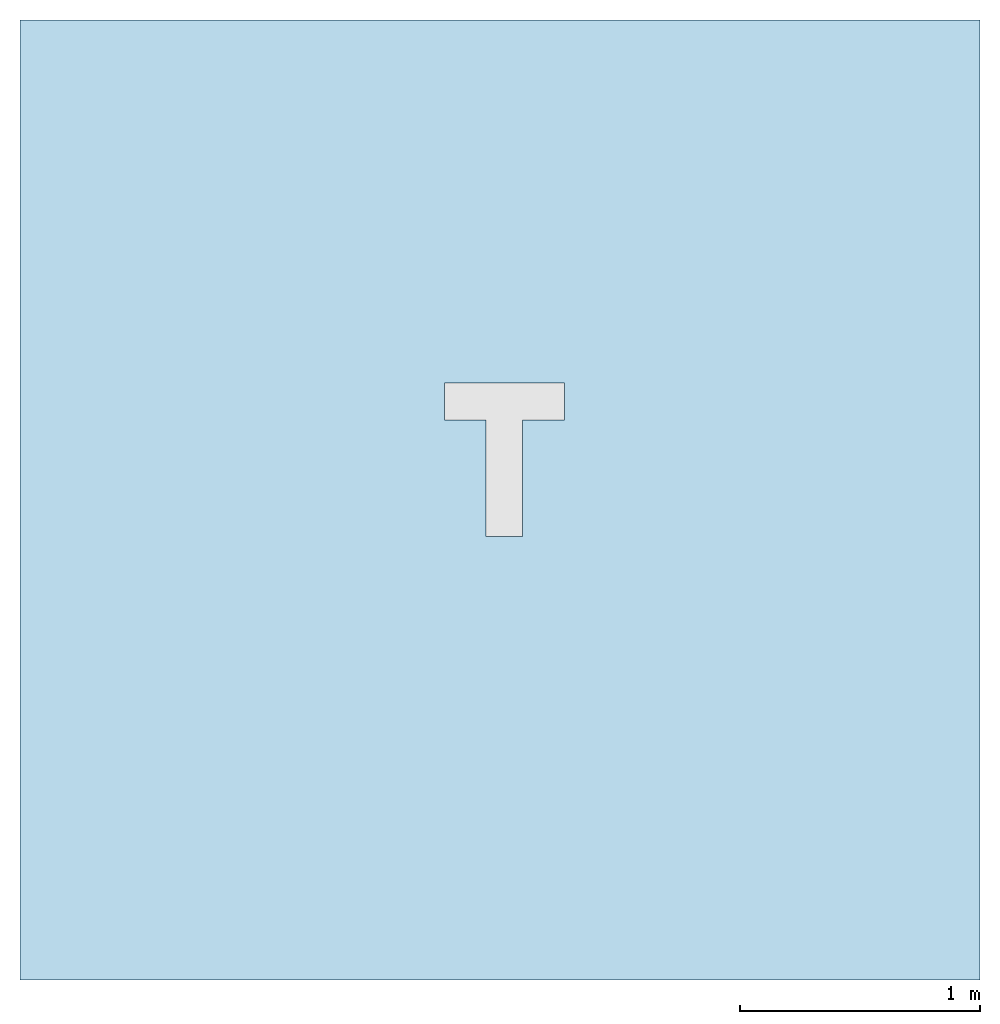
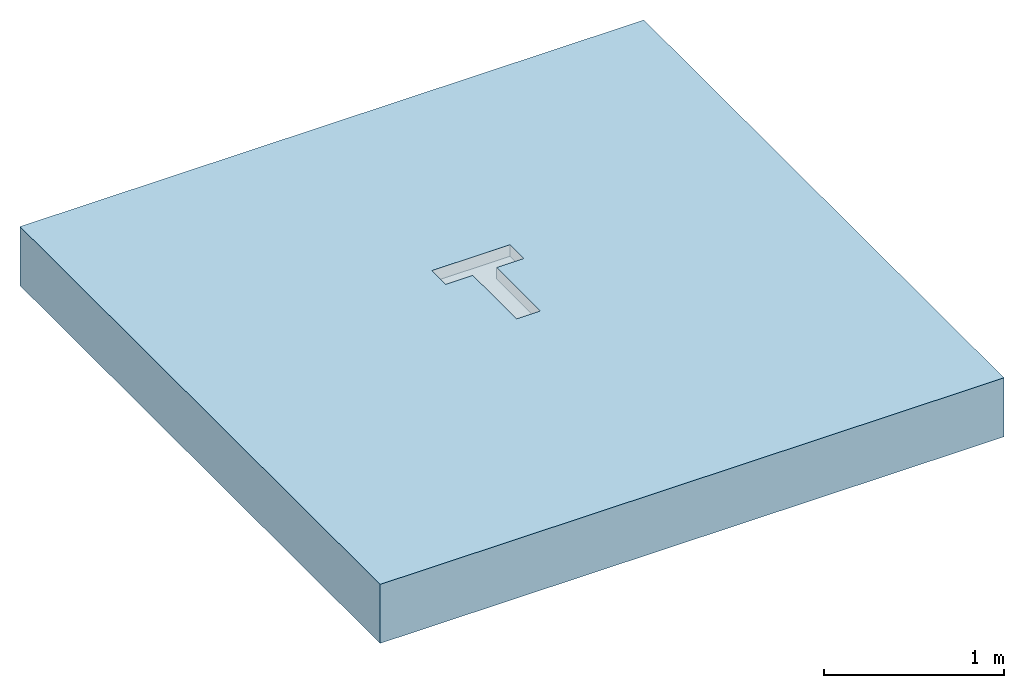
# One storey, incomplete: 1 slab, 1 opening.
"""IFC2X3 building model written with IfcOpenShell, lengths in millimetres."""

from ifc_helpers import new_model, entity, si_unit, converted_unit, direction, frame, frame_2d, origin, place, context, subcontext, project, spatial, polyline, rectangle, outline, extrude, material, layer, layer_set, layer_usage, element, save


model = new_model("IFC2X3")

# Units and contexts
model_context = context("Model", 3, precision=1e-06, world=origin(), true_north=direction((2.0, 6.12303176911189e-17, 1.0)))
context_of_model = context(None, 3, precision=1e-06, world=origin(), true_north=direction((2.0, 6.12303176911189e-17, 1.0)))
body_context = subcontext(model_context, "Body", "Model", "MODEL_VIEW")
ifc_project = project(units=[si_unit("LENGTHUNIT", "METRE", prefix="MILLI"), si_unit("AREAUNIT", "SQUARE_METRE", prefix="MILLI"), si_unit("VOLUMEUNIT", "CUBIC_METRE", prefix="MILLI"), converted_unit("PLANEANGLEUNIT", "DEGREE", entity("IfcRatioMeasure", 0.0174532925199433), si_unit("PLANEANGLEUNIT", "RADIAN"), dimensions=[0, 0, 0, 0, 0, 0, 0]), si_unit("TIMEUNIT", "SECOND")], contexts=[model_context, context_of_model])

# Site, building, storey
site_placement = place(None, origin())
site = spatial("IfcSite", under=ifc_project, at=site_placement, Name="Default", CompositionType="ELEMENT")
building_placement = place(site_placement, origin())
building = spatial("IfcBuilding", under=site, at=building_placement, CompositionType="ELEMENT")
storey_placement = place(building_placement, origin())
storey = spatial("IfcBuildingStorey", under=building, at=storey_placement, Name="Level 1", CompositionType="ELEMENT", Elevation=0.0)

# Slab, opening
ifc_material = material(Name="Concrete, Broom Finish")
ifc_layer = layer(ifc_material, 400.0)
ifc_layer_set = layer_set([ifc_layer], Name="Floor:Generic Floor - 400mm")
ifc_layer_usage = layer_usage(ifc_layer_set, "AXIS3", "POSITIVE", 0.0)
slab_placement = place(storey_placement, origin())
slab = element("IfcSlab", 1, at=slab_placement, inside=storey, material=ifc_layer_usage, Name="Floor:Generic Floor - 400mm", ObjectType="Floor:Generic Floor - 400mm", PredefinedType="FLOOR", context=body_context, shape_type="SweptSolid", body=[
    extrude(rectangle(XDim=4000.0, YDim=4000.0, at=frame_2d((0.0, 0.0), x_axis=(0.0, -1.0))), frame((-42.176138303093, 0.318612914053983, 0.0), z_axis=(0.0, 0.0, -1.0), x_axis=(-1.0, 0.0, 0.0)), (0.0, 0.0, 1.0), 400.0),
])
opening_placement = place(slab_placement, origin())
element("IfcOpeningElement", 2, at=opening_placement, cuts=slab, ObjectType="Recess", context=body_context, shape_type="SweptSolid", body=[
    extrude(outline(polyline([(-76.4999896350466, -402.749989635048), (76.4999689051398, -402.749989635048), (76.4999689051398, 83.2500103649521), (250.000010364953, 83.2499689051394), (250.000010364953, 236.250010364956), (-249.999989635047, 236.250010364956), (-249.999989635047, 83.2499689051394), (-76.4999896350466, 83.2500103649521), (-76.4999896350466, -402.749989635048)])), frame((-24.2866257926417, 251.007658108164, -77.8000000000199)), (0.0, 0.0, 1.0), 77.8000000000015),
])

save(model, "model.ifc")
